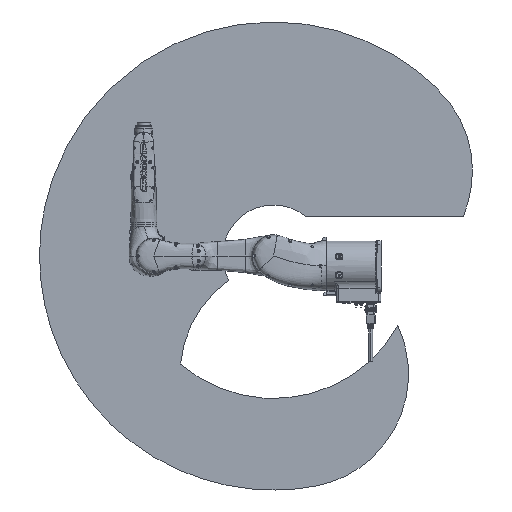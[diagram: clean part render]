
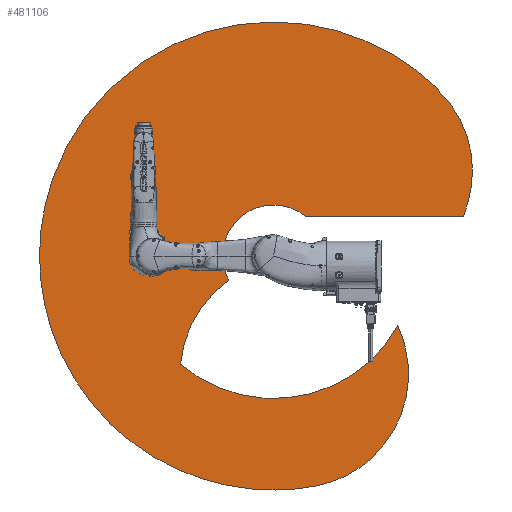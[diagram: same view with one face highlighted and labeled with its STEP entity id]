
A CAD part, left-side view. The second image highlights one B-rep face of the part: STEP entity #481106.
In plain terms, the highlighted planar face has unit normal (1, 0, 0).
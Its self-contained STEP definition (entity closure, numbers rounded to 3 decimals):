
#9280 = DIRECTION ( 'NONE',  ( 1., 0., 0. ) ) ;
#12607 = CARTESIAN_POINT ( 'NONE',  ( 0., 379.845, 250. ) ) ;
#19248 = CARTESIAN_POINT ( 'NONE',  ( 0., 335.082, -1104.422 ) ) ;
#20353 = LINE ( 'NONE', #12607, #307218 ) ;
#21543 = ORIENTED_EDGE ( 'NONE', *, *, #181244, .T. ) ;
#21842 = CARTESIAN_POINT ( 'NONE',  ( 0., 305.582, -1098.418 ) ) ;
#42101 = AXIS2_PLACEMENT_3D ( 'NONE', #339651, #302968, #383978 ) ;
#47069 = CARTESIAN_POINT ( 'NONE',  ( 0., 762.612, -72.25 ) ) ;
#55812 = VERTEX_POINT ( 'NONE', #486080 ) ;
#58526 = CARTESIAN_POINT ( 'NONE',  ( 0., -312.849, 856.969 ) ) ;
#61090 = CARTESIAN_POINT ( 'NONE',  ( 0., -232.465, 933.247 ) ) ;
#63663 = CARTESIAN_POINT ( 'NONE',  ( 0., -470.226, 638.631 ) ) ;
#69062 = ORIENTED_EDGE ( 'NONE', *, *, #296940, .T. ) ;
#75413 = CARTESIAN_POINT ( 'NONE',  ( 0., 1004.323, -491.015 ) ) ;
#78034 = DIRECTION ( 'NONE',  ( 0., 0., -1. ) ) ;
#82058 = CARTESIAN_POINT ( 'NONE',  ( 0., 538.5, 50. ) ) ;
#100380 = CARTESIAN_POINT ( 'NONE',  ( 0., -340.366, 822.435 ) ) ;
#114201 = FACE_OUTER_BOUND ( 'NONE', #428162, .T. ) ;
#117375 = AXIS2_PLACEMENT_3D ( 'NONE', #364943, #9280, #440813 ) ;
#123863 = DIRECTION ( 'NONE',  ( -1., 0., 0. ) ) ;
#134450 = CARTESIAN_POINT ( 'NONE',  ( 0., 369.44, -1109.933 ) ) ;
#139605 = CARTESIAN_POINT ( 'NONE',  ( 0., -215.59, 947.427 ) ) ;
#152451 = ORIENTED_EDGE ( 'NONE', *, *, #186393, .T. ) ;
#157917 = VERTEX_POINT ( 'NONE', #75413 ) ;
#164612 = CARTESIAN_POINT ( 'NONE',  ( 0., -412.172, 250. ) ) ;
#175661 = ORIENTED_EDGE ( 'NONE', *, *, #277068, .T. ) ;
#181244 = EDGE_CURVE ( 'NONE', #157917, #363605, #431736, .T. ) ;
#183952 = CARTESIAN_POINT ( 'NONE',  ( 0., 1923.931, -536.481 ) ) ;
#186393 = EDGE_CURVE ( 'NONE', #55812, #300974, #317502, .T. ) ;
#194551 = DIRECTION ( 'NONE',  ( 0., 0., -1. ) ) ;
#220621 = CARTESIAN_POINT ( 'NONE',  ( 0., -353.085, 804.433 ) ) ;
#223186 = CARTESIAN_POINT ( 'NONE',  ( 0., 323.891, -1102.394 ) ) ;
#257184 = CARTESIAN_POINT ( 'NONE',  ( 0., 301.938, -1097.551 ) ) ;
#259732 = CARTESIAN_POINT ( 'NONE',  ( 0., 365.599, -1109.373 ) ) ;
#262332 = CARTESIAN_POINT ( 'NONE',  ( 0., 312.888, -1100.079 ) ) ;
#262540 = EDGE_CURVE ( 'NONE', #300974, #157917, #474893, .T. ) ;
#277068 = EDGE_CURVE ( 'NONE', #363605, #393390, #298790, .T. ) ;
#296940 = EDGE_CURVE ( 'NONE', #393390, #55812, #20353, .T. ) ;
#298790 =( BOUNDED_CURVE ( )  B_SPLINE_CURVE ( 3, ( #377478, #304159, #497744, #257184, #21842, #262332, #223186, #19248, #500343, #458534, #259732, #134450, #461088, #183952, #419231, #374902, #343404, #139605, #61090, #421806, #58526, #100380, #220621, #63663, #335675, #495175 ),
 .UNSPECIFIED., .F., .F. ) 
 B_SPLINE_CURVE_WITH_KNOTS ( ( 4, 3, 1, 1, 1, 1, 1, 3, 3, 3, 1, 1, 3, 4 ),
 ( 0., 0.157, 0.159, 0.161, 0.163, 0.165, 0.167, 0.169, 0.518, 0.866, 0.878, 0.89, 0.901, 1. ),
 .UNSPECIFIED. ) 
 CURVE ( )  GEOMETRIC_REPRESENTATION_ITEM ( )  RATIONAL_B_SPLINE_CURVE ( ( 1., 0.755, 0.755, 1., 1., 1., 1., 1., 1., 1., 1., 1., 0.696, 0.696, 1., 0.696, 0.696, 1., 1., 1., 1., 1., 1., 0.916, 0.916, 1. ) ) 
 REPRESENTATION_ITEM ( '' )  );
#300974 = VERTEX_POINT ( 'NONE', #47069 ) ;
#302968 = DIRECTION ( 'NONE',  ( -1., 0., 0. ) ) ;
#304159 = CARTESIAN_POINT ( 'NONE',  ( 0., -249.859, -654.177 ) ) ;
#307218 = VECTOR ( 'NONE', #407434, 1000. ) ;
#313347 = DIRECTION ( 'NONE',  ( -1., 0., 0. ) ) ;
#317502 = CIRCLE ( 'NONE', #42101, 255.287 ) ;
#323166 = AXIS2_PLACEMENT_3D ( 'NONE', #82058, #123863, #194551 ) ;
#335675 = CARTESIAN_POINT ( 'NONE',  ( 0., -491.74, 436.766 ) ) ;
#339651 = CARTESIAN_POINT ( 'NONE',  ( 0., 538.5, 50. ) ) ;
#343404 = CARTESIAN_POINT ( 'NONE',  ( 0., 506.412, 1554.11 ) ) ;
#363605 = VERTEX_POINT ( 'NONE', #444892 ) ;
#364943 = CARTESIAN_POINT ( 'NONE',  ( 0., 538.5, 50. ) ) ;
#374902 = CARTESIAN_POINT ( 'NONE',  ( 0., 1408.05, 1277.705 ) ) ;
#377478 = CARTESIAN_POINT ( 'NONE',  ( 0., -84.268, -299.067 ) ) ;
#383978 = DIRECTION ( 'NONE',  ( 0., 0., -1. ) ) ;
#393390 = VERTEX_POINT ( 'NONE', #164612 ) ;
#397089 = ORIENTED_EDGE ( 'NONE', *, *, #262540, .T. ) ;
#407434 = DIRECTION ( 'NONE',  ( 0., 1., 0. ) ) ;
#419231 = CARTESIAN_POINT ( 'NONE',  ( 0., 1665.99, 370.612 ) ) ;
#421806 = CARTESIAN_POINT ( 'NONE',  ( 0., -265.415, 903.936 ) ) ;
#428162 = EDGE_LOOP ( 'NONE', ( #152451, #397089, #21543, #175661, #69062 ) ) ;
#431736 = CIRCLE ( 'NONE', #323166, 713.924 ) ;
#440813 = DIRECTION ( 'NONE',  ( 0., 0., -1. ) ) ;
#444892 = CARTESIAN_POINT ( 'NONE',  ( 0., -84.268, -299.067 ) ) ;
#458534 = CARTESIAN_POINT ( 'NONE',  ( 0., 357.923, -1108.216 ) ) ;
#461088 = CARTESIAN_POINT ( 'NONE',  ( 0., 1302.634, -1245.946 ) ) ;
#474893 = CIRCLE ( 'NONE', #508498, 572.189 ) ;
#481106 = ADVANCED_FACE ( 'NONE', ( #114201 ), #508995, .T. ) ;
#486080 = CARTESIAN_POINT ( 'NONE',  ( 0., 379.845, 250. ) ) ;
#495175 = CARTESIAN_POINT ( 'NONE',  ( 0., -412.172, 250. ) ) ;
#497744 = CARTESIAN_POINT ( 'NONE',  ( 0., -79.253, -1006.905 ) ) ;
#500343 = CARTESIAN_POINT ( 'NONE',  ( 0., 346.425, -1106.365 ) ) ;
#508498 = AXIS2_PLACEMENT_3D ( 'NONE', #512017, #313347, #78034 ) ;
#508995 = PLANE ( 'NONE',  #117375 ) ;
#512017 = CARTESIAN_POINT ( 'NONE',  ( 0., 434.311, -540.885 ) ) ;
